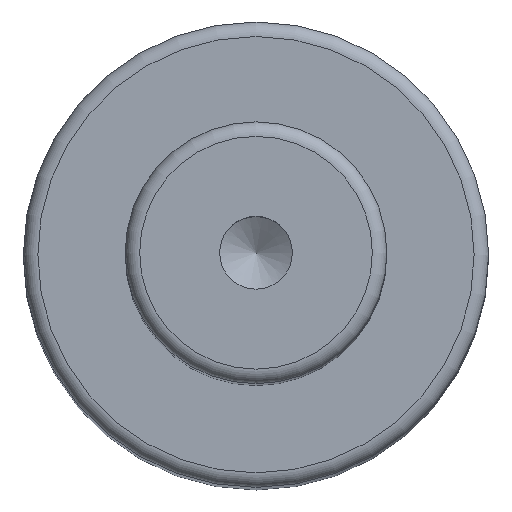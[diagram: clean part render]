
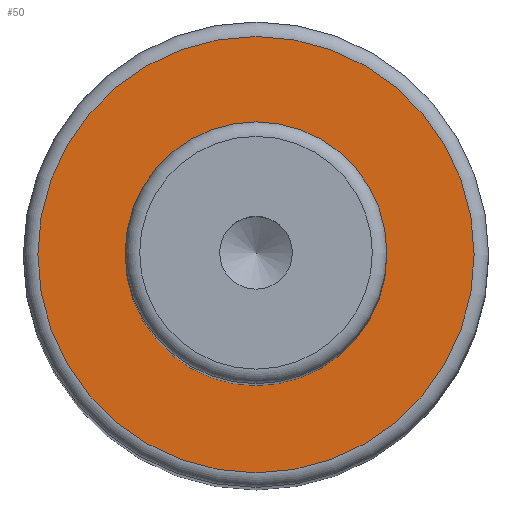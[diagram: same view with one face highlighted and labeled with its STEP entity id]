
A CAD part, top view. The second image highlights one B-rep face of the part: STEP entity #50.
In plain terms, the highlighted planar face has unit normal (0, 0, 1).
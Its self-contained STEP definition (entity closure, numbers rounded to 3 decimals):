
#40=PLANE('',#179);
#50=ADVANCED_FACE('',(#72,#73),#40,.F.);
#72=FACE_BOUND('',#96,.T.);
#73=FACE_BOUND('',#97,.T.);
#96=EDGE_LOOP('',(#118));
#97=EDGE_LOOP('',(#119));
#118=ORIENTED_EDGE('',*,*,#149,.F.);
#119=ORIENTED_EDGE('',*,*,#148,.T.);
#135=VERTEX_POINT('',#256);
#136=VERTEX_POINT('',#259);
#148=EDGE_CURVE('',#135,#135,#159,.T.);
#149=EDGE_CURVE('',#136,#136,#160,.T.);
#159=CIRCLE('',#176,9.);
#160=CIRCLE('',#178,15.);
#176=AXIS2_PLACEMENT_3D('',#255,#213,#214);
#178=AXIS2_PLACEMENT_3D('',#258,#217,#218);
#179=AXIS2_PLACEMENT_3D('',#260,#219,#220);
#213=DIRECTION('',(0.,0.,-1.));
#214=DIRECTION('',(-1.,0.,0.));
#217=DIRECTION('',(0.,0.,-1.));
#218=DIRECTION('',(-1.,0.,0.));
#219=DIRECTION('',(0.,0.,-1.));
#220=DIRECTION('',(-1.,0.,0.));
#255=CARTESIAN_POINT('',(0.,0.,104.));
#256=CARTESIAN_POINT('',(-9.,0.,104.));
#258=CARTESIAN_POINT('',(0.,0.,104.));
#259=CARTESIAN_POINT('',(-15.,0.,104.));
#260=CARTESIAN_POINT('',(9.,0.,104.));
